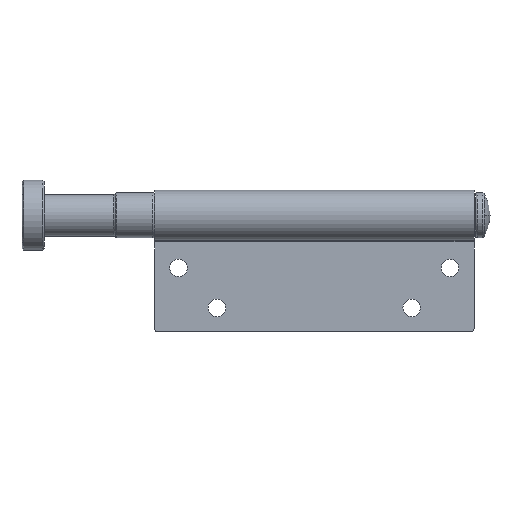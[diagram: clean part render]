
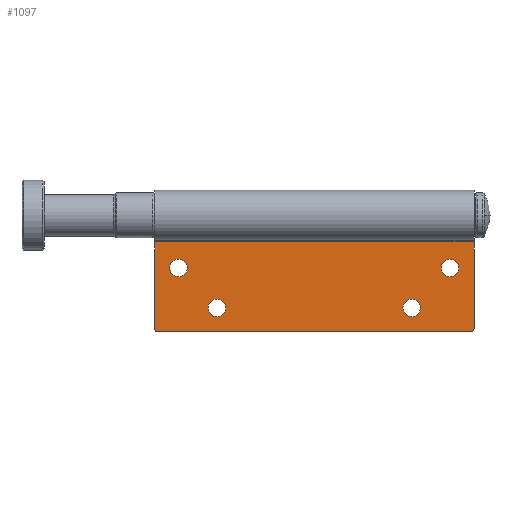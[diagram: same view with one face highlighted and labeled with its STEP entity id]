
A CAD part, left-side view. The second image highlights one B-rep face of the part: STEP entity #1097.
In plain terms, the highlighted planar face has unit normal (-1, 0, 0) as drawn and (1, 0, 0) by its records, which use the part's own axes.
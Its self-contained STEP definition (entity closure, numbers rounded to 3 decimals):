
#2 = VERTEX_POINT ( 'NONE', #858 ) ;
#4 = VERTEX_POINT ( 'NONE', #1449 ) ;
#35 = EDGE_CURVE ( 'NONE', #1310, #746, #40, .T. ) ;
#40 = CIRCLE ( 'NONE', #1187, 2.75 ) ;
#61 = DIRECTION ( 'NONE',  ( 0., 0., 1. ) ) ;
#63 = DIRECTION ( 'NONE',  ( -1., 0., 0. ) ) ;
#67 = ORIENTED_EDGE ( 'NONE', *, *, #1468, .T. ) ;
#69 = FACE_BOUND ( 'NONE', #653, .T. ) ;
#75 = VECTOR ( 'NONE', #193, 1000. ) ;
#82 = DIRECTION ( 'NONE',  ( -1., 0., 0. ) ) ;
#86 = CARTESIAN_POINT ( 'NONE',  ( 37.336, 40.609, 26.473 ) ) ;
#96 = VERTEX_POINT ( 'NONE', #1356 ) ;
#100 = CARTESIAN_POINT ( 'NONE',  ( 37.336, -32.391, 16.723 ) ) ;
#115 = CARTESIAN_POINT ( 'NONE',  ( 37.336, 40.609, 31.973 ) ) ;
#169 = CIRCLE ( 'NONE', #238, 2.75 ) ;
#172 = AXIS2_PLACEMENT_3D ( 'NONE', #1106, #777, #327 ) ;
#192 = ORIENTED_EDGE ( 'NONE', *, *, #907, .T. ) ;
#193 = DIRECTION ( 'NONE',  ( 0., 0., -1. ) ) ;
#202 = CIRCLE ( 'NONE', #1749, 2.75 ) ;
#213 = CARTESIAN_POINT ( 'NONE',  ( 37.336, 59.109, 35.723 ) ) ;
#224 = CARTESIAN_POINT ( 'NONE',  ( 37.336, -20.391, 29.223 ) ) ;
#229 = VERTEX_POINT ( 'NONE', #512 ) ;
#238 = AXIS2_PLACEMENT_3D ( 'NONE', #224, #821, #61 ) ;
#259 = CARTESIAN_POINT ( 'NONE',  ( 37.336, 40.609, 29.223 ) ) ;
#273 = AXIS2_PLACEMENT_3D ( 'NONE', #213, #1433, #988 ) ;
#278 = VERTEX_POINT ( 'NONE', #1842 ) ;
#327 = DIRECTION ( 'NONE',  ( 0., 0., 1. ) ) ;
#350 = ORIENTED_EDGE ( 'NONE', *, *, #447, .T. ) ;
#358 = EDGE_CURVE ( 'NONE', #746, #1310, #365, .T. ) ;
#365 = CIRCLE ( 'NONE', #882, 2.75 ) ;
#380 = FACE_OUTER_BOUND ( 'NONE', #713, .T. ) ;
#385 = ORIENTED_EDGE ( 'NONE', *, *, #1355, .F. ) ;
#428 = EDGE_LOOP ( 'NONE', ( #1309, #720 ) ) ;
#433 = CIRCLE ( 'NONE', #1371, 2.75 ) ;
#447 = EDGE_CURVE ( 'NONE', #1300, #1451, #169, .T. ) ;
#451 = DIRECTION ( 'NONE',  ( 1., 0., 0. ) ) ;
#474 = CARTESIAN_POINT ( 'NONE',  ( 37.336, -32.391, 19.473 ) ) ;
#478 = EDGE_CURVE ( 'NONE', #4, #1952, #1121, .T. ) ;
#482 = EDGE_CURVE ( 'NONE', #550, #96, #202, .T. ) ;
#490 = DIRECTION ( 'NONE',  ( 0., 0., 1. ) ) ;
#512 = CARTESIAN_POINT ( 'NONE',  ( 37.336, -32.391, 13.973 ) ) ;
#526 = DIRECTION ( 'NONE',  ( 0., 0., 1. ) ) ;
#533 = EDGE_CURVE ( 'NONE', #278, #1743, #1694, .T. ) ;
#550 = VERTEX_POINT ( 'NONE', #634 ) ;
#563 = VERTEX_POINT ( 'NONE', #474 ) ;
#566 = VECTOR ( 'NONE', #807, 1000. ) ;
#587 = EDGE_CURVE ( 'NONE', #96, #550, #1554, .T. ) ;
#590 = ORIENTED_EDGE ( 'NONE', *, *, #587, .T. ) ;
#604 = VECTOR ( 'NONE', #1419, 1000. ) ;
#634 = CARTESIAN_POINT ( 'NONE',  ( 37.336, 52.609, 13.973 ) ) ;
#653 = EDGE_LOOP ( 'NONE', ( #590, #1619 ) ) ;
#657 = DIRECTION ( 'NONE',  ( 0., 1., 0. ) ) ;
#687 = ORIENTED_EDGE ( 'NONE', *, *, #533, .T. ) ;
#703 = CARTESIAN_POINT ( 'NONE',  ( 37.336, 60.109, 36.723 ) ) ;
#713 = EDGE_LOOP ( 'NONE', ( #67, #192, #687, #986, #385, #717 ) ) ;
#717 = ORIENTED_EDGE ( 'NONE', *, *, #478, .T. ) ;
#720 = ORIENTED_EDGE ( 'NONE', *, *, #980, .T. ) ;
#722 = EDGE_CURVE ( 'NONE', #1451, #1300, #433, .T. ) ;
#746 = VERTEX_POINT ( 'NONE', #86 ) ;
#777 = DIRECTION ( 'NONE',  ( -1., 0., 0. ) ) ;
#782 = LINE ( 'NONE', #1375, #566 ) ;
#795 = DIRECTION ( 'NONE',  ( 0., 0., 1. ) ) ;
#807 = DIRECTION ( 'NONE',  ( 0., -1., 0. ) ) ;
#821 = DIRECTION ( 'NONE',  ( -1., 0., 0. ) ) ;
#827 = CARTESIAN_POINT ( 'NONE',  ( 37.336, 60.109, 36.723 ) ) ;
#858 = CARTESIAN_POINT ( 'NONE',  ( 37.336, 60.109, 8.573 ) ) ;
#876 = CARTESIAN_POINT ( 'NONE',  ( 37.336, -20.391, 31.973 ) ) ;
#882 = AXIS2_PLACEMENT_3D ( 'NONE', #1228, #1691, #490 ) ;
#893 = ORIENTED_EDGE ( 'NONE', *, *, #35, .T. ) ;
#907 = EDGE_CURVE ( 'NONE', #1906, #278, #1556, .T. ) ;
#946 = EDGE_CURVE ( 'NONE', #1743, #2, #1220, .T. ) ;
#953 = CARTESIAN_POINT ( 'NONE',  ( 37.336, -38.891, 36.723 ) ) ;
#957 = CARTESIAN_POINT ( 'NONE',  ( 37.336, -32.391, 16.723 ) ) ;
#967 = FACE_BOUND ( 'NONE', #1263, .T. ) ;
#980 = EDGE_CURVE ( 'NONE', #229, #563, #1284, .T. ) ;
#986 = ORIENTED_EDGE ( 'NONE', *, *, #946, .T. ) ;
#988 = DIRECTION ( 'NONE',  ( 0., 0., 1. ) ) ;
#1061 = AXIS2_PLACEMENT_3D ( 'NONE', #957, #1521, #795 ) ;
#1095 = EDGE_CURVE ( 'NONE', #563, #229, #1402, .T. ) ;
#1097 = ADVANCED_FACE ( 'NONE', ( #1123, #69, #1268, #967, #380 ), #1870, .F. ) ;
#1106 = CARTESIAN_POINT ( 'NONE',  ( 37.336, 52.609, 16.723 ) ) ;
#1121 = CIRCLE ( 'NONE', #273, 1. ) ;
#1123 = FACE_BOUND ( 'NONE', #1191, .T. ) ;
#1132 = DIRECTION ( 'NONE',  ( -1., 0., 0. ) ) ;
#1152 = AXIS2_PLACEMENT_3D ( 'NONE', #1329, #451, #1509 ) ;
#1187 = AXIS2_PLACEMENT_3D ( 'NONE', #259, #1806, #1956 ) ;
#1191 = EDGE_LOOP ( 'NONE', ( #350, #1599 ) ) ;
#1207 = CARTESIAN_POINT ( 'NONE',  ( 37.336, -39.891, 8.573 ) ) ;
#1220 = LINE ( 'NONE', #1825, #1401 ) ;
#1224 = CARTESIAN_POINT ( 'NONE',  ( 37.336, 59.109, 36.723 ) ) ;
#1228 = CARTESIAN_POINT ( 'NONE',  ( 37.336, 40.609, 29.223 ) ) ;
#1257 = DIRECTION ( 'NONE',  ( 0., 0., 1. ) ) ;
#1261 = CARTESIAN_POINT ( 'NONE',  ( 37.336, -39.891, 36.723 ) ) ;
#1263 = EDGE_LOOP ( 'NONE', ( #893, #1297 ) ) ;
#1268 = FACE_BOUND ( 'NONE', #428, .T. ) ;
#1284 = CIRCLE ( 'NONE', #1061, 2.75 ) ;
#1297 = ORIENTED_EDGE ( 'NONE', *, *, #358, .T. ) ;
#1300 = VERTEX_POINT ( 'NONE', #876 ) ;
#1303 = DIRECTION ( 'NONE',  ( -1., 0., 0. ) ) ;
#1309 = ORIENTED_EDGE ( 'NONE', *, *, #1095, .T. ) ;
#1310 = VERTEX_POINT ( 'NONE', #115 ) ;
#1329 = CARTESIAN_POINT ( 'NONE',  ( 37.336, -38.891, 35.723 ) ) ;
#1348 = AXIS2_PLACEMENT_3D ( 'NONE', #703, #1132, #1257 ) ;
#1355 = EDGE_CURVE ( 'NONE', #4, #2, #1845, .T. ) ;
#1356 = CARTESIAN_POINT ( 'NONE',  ( 37.336, 52.609, 19.473 ) ) ;
#1371 = AXIS2_PLACEMENT_3D ( 'NONE', #1872, #63, #526 ) ;
#1375 = CARTESIAN_POINT ( 'NONE',  ( 37.336, 60.109, 36.723 ) ) ;
#1401 = VECTOR ( 'NONE', #657, 1000. ) ;
#1402 = CIRCLE ( 'NONE', #1791, 2.75 ) ;
#1419 = DIRECTION ( 'NONE',  ( 0., 0., -1. ) ) ;
#1431 = DIRECTION ( 'NONE',  ( 0., 0., 1. ) ) ;
#1433 = DIRECTION ( 'NONE',  ( 1., 0., 0. ) ) ;
#1449 = CARTESIAN_POINT ( 'NONE',  ( 37.336, 60.109, 35.723 ) ) ;
#1451 = VERTEX_POINT ( 'NONE', #1823 ) ;
#1468 = EDGE_CURVE ( 'NONE', #1952, #1906, #782, .T. ) ;
#1509 = DIRECTION ( 'NONE',  ( 0., 0., 1. ) ) ;
#1521 = DIRECTION ( 'NONE',  ( -1., 0., 0. ) ) ;
#1554 = CIRCLE ( 'NONE', #172, 2.75 ) ;
#1556 = CIRCLE ( 'NONE', #1152, 1. ) ;
#1577 = CARTESIAN_POINT ( 'NONE',  ( 37.336, 52.609, 16.723 ) ) ;
#1599 = ORIENTED_EDGE ( 'NONE', *, *, #722, .T. ) ;
#1619 = ORIENTED_EDGE ( 'NONE', *, *, #482, .T. ) ;
#1691 = DIRECTION ( 'NONE',  ( -1., 0., 0. ) ) ;
#1694 = LINE ( 'NONE', #1261, #75 ) ;
#1742 = DIRECTION ( 'NONE',  ( 0., 0., 1. ) ) ;
#1743 = VERTEX_POINT ( 'NONE', #1207 ) ;
#1749 = AXIS2_PLACEMENT_3D ( 'NONE', #1577, #1303, #1742 ) ;
#1791 = AXIS2_PLACEMENT_3D ( 'NONE', #100, #82, #1431 ) ;
#1806 = DIRECTION ( 'NONE',  ( -1., 0., 0. ) ) ;
#1823 = CARTESIAN_POINT ( 'NONE',  ( 37.336, -20.391, 26.473 ) ) ;
#1825 = CARTESIAN_POINT ( 'NONE',  ( 37.336, 60.109, 8.573 ) ) ;
#1842 = CARTESIAN_POINT ( 'NONE',  ( 37.336, -39.891, 35.723 ) ) ;
#1845 = LINE ( 'NONE', #827, #604 ) ;
#1870 = PLANE ( 'NONE',  #1348 ) ;
#1872 = CARTESIAN_POINT ( 'NONE',  ( 37.336, -20.391, 29.223 ) ) ;
#1906 = VERTEX_POINT ( 'NONE', #953 ) ;
#1952 = VERTEX_POINT ( 'NONE', #1224 ) ;
#1956 = DIRECTION ( 'NONE',  ( 0., 0., 1. ) ) ;
